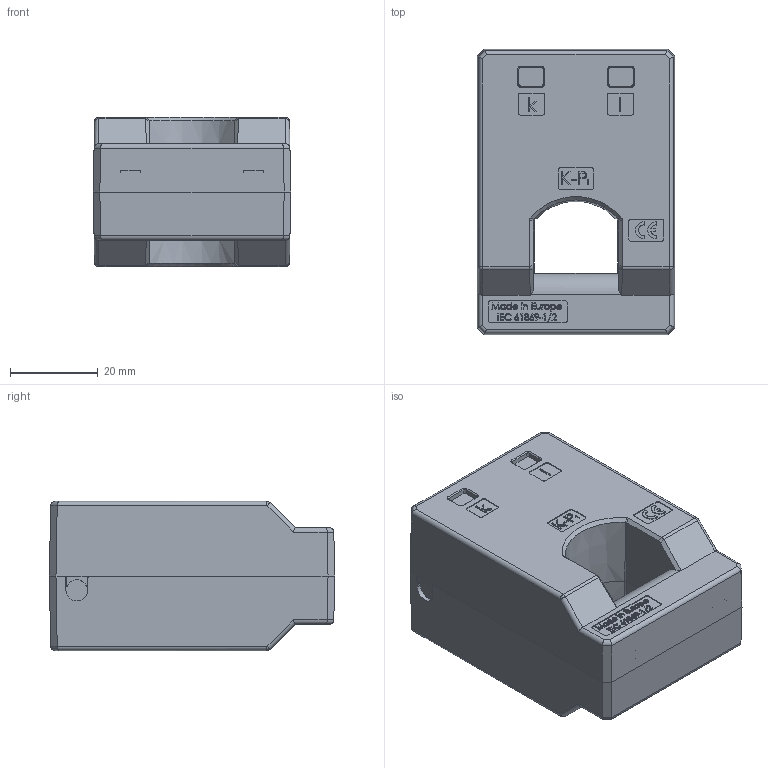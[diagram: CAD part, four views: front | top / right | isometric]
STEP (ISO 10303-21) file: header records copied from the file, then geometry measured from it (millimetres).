
FILE_DESCRIPTION (( 'STEP AP214' ), '1' );
FILE_NAME ('ASKL19.34_vereinfacht.STEP', '2014-03-18T07:36:39', ( 'alex' ), ( '' ), 'SwSTEP 2.0', 'SolidWorks 2013', '' );
FILE_SCHEMA (( 'AUTOMOTIVE_DESIGN' ));
Length unit declared in the file: millimetre
Products named in the file (1): ASKL19.34_vereinfacht
Bounding box: 45 x 65 x 34 mm (x, y, z)
Volume: 80320.9 mm3; surface area: 15080.9 mm2
Topology: 1 solids, 8 shells, 1121 faces, 2933 edges, 1931 vertices
Faces by surface type: plane 631, bspline 340, cylinder 106, cone 40, sphere 4
Entity records: 50427 total; most frequent: CARTESIAN_POINT 25235, ORIENTED_EDGE 5866, DIRECTION 3924, EDGE_CURVE 2933, LINE 1956, VECTOR 1956, VERTEX_POINT 1931, EDGE_LOOP 1228
